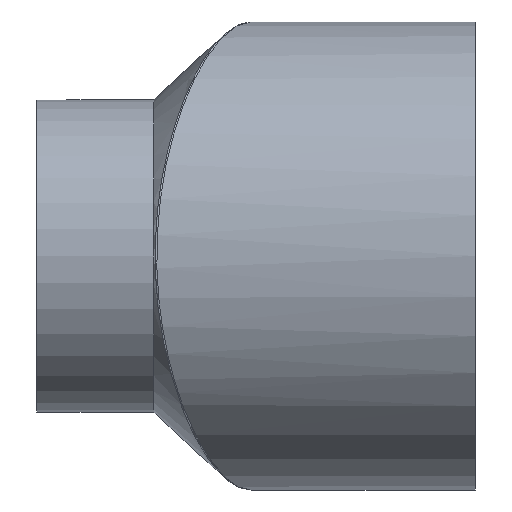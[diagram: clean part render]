
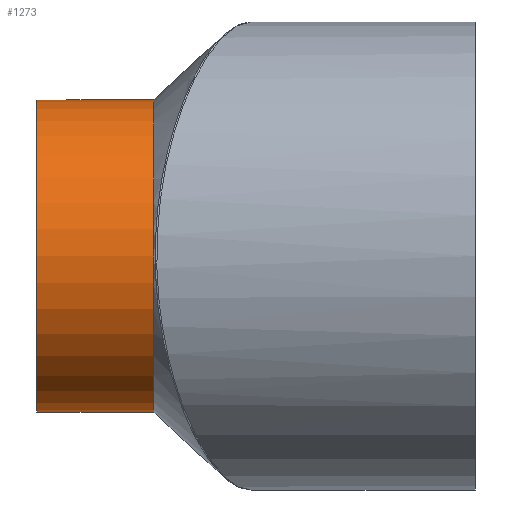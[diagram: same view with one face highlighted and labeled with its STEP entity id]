
A CAD part, front view. The second image highlights one B-rep face of the part: STEP entity #1273.
In plain terms, the highlighted cylindrical face has radius 50.8 mm (diameter 101.6 mm), a partial arc.
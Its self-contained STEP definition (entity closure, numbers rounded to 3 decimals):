
#62 = EDGE_CURVE ( 'NONE', #1389, #1464, #421, .T. ) ;
#93 = CARTESIAN_POINT ( 'NONE',  ( -95.224, -24.74, -50.8 ) ) ;
#153 = CARTESIAN_POINT ( 'NONE',  ( -104.775, -24.74, -50.8 ) ) ;
#209 = CYLINDRICAL_SURFACE ( 'NONE', #551, 50.8 ) ;
#212 = ORIENTED_EDGE ( 'NONE', *, *, #595, .T. ) ;
#309 = LINE ( 'NONE', #531, #628 ) ;
#395 = CARTESIAN_POINT ( 'NONE',  ( -104.775, -24.74, 0. ) ) ;
#406 = VECTOR ( 'NONE', #1386, 1000. ) ;
#421 = CIRCLE ( 'NONE', #884, 50.8 ) ;
#428 = CIRCLE ( 'NONE', #1486, 50.8 ) ;
#531 = CARTESIAN_POINT ( 'NONE',  ( -95.224, -24.74, 50.8 ) ) ;
#544 = DIRECTION ( 'NONE',  ( 1., 0., 0. ) ) ;
#551 = AXIS2_PLACEMENT_3D ( 'NONE', #666, #1458, #728 ) ;
#571 = CARTESIAN_POINT ( 'NONE',  ( -142.875, -24.74, 50.8 ) ) ;
#595 = EDGE_CURVE ( 'NONE', #1262, #1464, #796, .T. ) ;
#602 = ORIENTED_EDGE ( 'NONE', *, *, #1285, .T. ) ;
#628 = VECTOR ( 'NONE', #544, 1000. ) ;
#649 = VERTEX_POINT ( 'NONE', #571 ) ;
#655 = FACE_OUTER_BOUND ( 'NONE', #1044, .T. ) ;
#666 = CARTESIAN_POINT ( 'NONE',  ( -95.224, -24.74, 0. ) ) ;
#728 = DIRECTION ( 'NONE',  ( 0., 0., -1. ) ) ;
#751 = ORIENTED_EDGE ( 'NONE', *, *, #62, .F. ) ;
#796 = LINE ( 'NONE', #93, #406 ) ;
#850 = CARTESIAN_POINT ( 'NONE',  ( -104.775, -24.74, 50.8 ) ) ;
#884 = AXIS2_PLACEMENT_3D ( 'NONE', #395, #984, #1078 ) ;
#984 = DIRECTION ( 'NONE',  ( 1., 0., 0. ) ) ;
#1008 = CARTESIAN_POINT ( 'NONE',  ( -142.875, -24.74, -50.8 ) ) ;
#1044 = EDGE_LOOP ( 'NONE', ( #1294, #602, #212, #751 ) ) ;
#1078 = DIRECTION ( 'NONE',  ( 0., 0., -1. ) ) ;
#1262 = VERTEX_POINT ( 'NONE', #1008 ) ;
#1273 = ADVANCED_FACE ( 'NONE', ( #655 ), #209, .T. ) ;
#1285 = EDGE_CURVE ( 'NONE', #649, #1262, #428, .T. ) ;
#1294 = ORIENTED_EDGE ( 'NONE', *, *, #1392, .F. ) ;
#1386 = DIRECTION ( 'NONE',  ( 1., 0., 0. ) ) ;
#1389 = VERTEX_POINT ( 'NONE', #850 ) ;
#1392 = EDGE_CURVE ( 'NONE', #649, #1389, #309, .T. ) ;
#1458 = DIRECTION ( 'NONE',  ( 1., 0., 0. ) ) ;
#1464 = VERTEX_POINT ( 'NONE', #153 ) ;
#1486 = AXIS2_PLACEMENT_3D ( 'NONE', #1504, #1499, #1490 ) ;
#1490 = DIRECTION ( 'NONE',  ( 0., 0., -1. ) ) ;
#1499 = DIRECTION ( 'NONE',  ( 1., 0., 0. ) ) ;
#1504 = CARTESIAN_POINT ( 'NONE',  ( -142.875, -24.74, 0. ) ) ;
